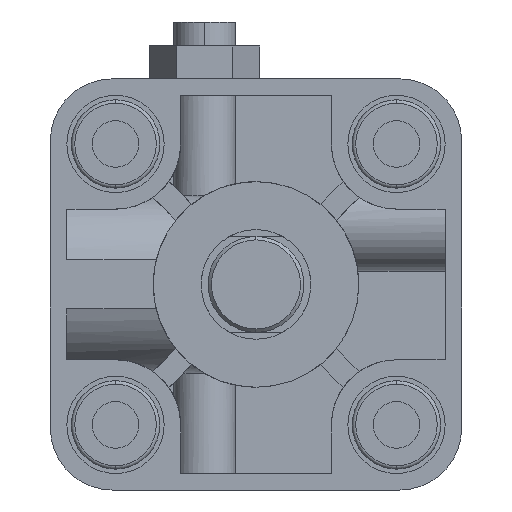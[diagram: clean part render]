
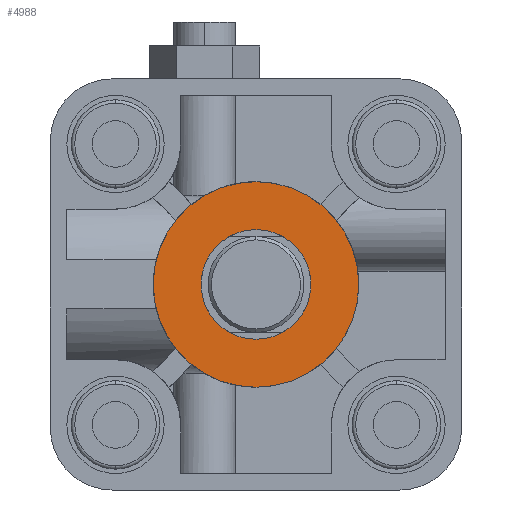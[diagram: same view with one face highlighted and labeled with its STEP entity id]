
A CAD part, left-side view. The second image highlights one B-rep face of the part: STEP entity #4988.
In plain terms, the highlighted planar face has unit normal (-1, 0, 0) as drawn and (1, 0, 0) by its records, which use the part's own axes.
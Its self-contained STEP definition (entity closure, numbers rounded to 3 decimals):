
#47 = EDGE_LOOP ( 'NONE', ( #381, #6078 ) ) ;
#381 = ORIENTED_EDGE ( 'NONE', *, *, #1108, .F. ) ;
#936 = CARTESIAN_POINT ( 'NONE',  ( 24.5, 0., -15. ) ) ;
#1074 = CARTESIAN_POINT ( 'NONE',  ( 24.5, 0., 0. ) ) ;
#1079 = CIRCLE ( 'NONE', #6099, 15. ) ;
#1097 = CARTESIAN_POINT ( 'NONE',  ( 24.5, 0., 0. ) ) ;
#1108 = EDGE_CURVE ( 'NONE', #3528, #4047, #8112, .T. ) ;
#1246 = PLANE ( 'NONE',  #1441 ) ;
#1377 = CARTESIAN_POINT ( 'NONE',  ( 24.5, 8., 0. ) ) ;
#1441 = AXIS2_PLACEMENT_3D ( 'NONE', #1377, #6020, #7096 ) ;
#1668 = CARTESIAN_POINT ( 'NONE',  ( 24.5, 0., -8. ) ) ;
#1759 = DIRECTION ( 'NONE',  ( -1., 0., 0. ) ) ;
#1786 = FACE_BOUND ( 'NONE', #5175, .T. ) ;
#1873 = VERTEX_POINT ( 'NONE', #7824 ) ;
#2124 = ORIENTED_EDGE ( 'NONE', *, *, #3691, .T. ) ;
#2474 = ORIENTED_EDGE ( 'NONE', *, *, #7526, .T. ) ;
#2658 = EDGE_CURVE ( 'NONE', #4047, #3528, #1079, .T. ) ;
#2756 = DIRECTION ( 'NONE',  ( -1., 0., 0. ) ) ;
#2989 = CARTESIAN_POINT ( 'NONE',  ( 24.5, 0., 15. ) ) ;
#2990 = AXIS2_PLACEMENT_3D ( 'NONE', #3666, #2756, #5952 ) ;
#3059 = DIRECTION ( 'NONE',  ( 0., 0., 1. ) ) ;
#3347 = DIRECTION ( 'NONE',  ( 0., 0., 1. ) ) ;
#3528 = VERTEX_POINT ( 'NONE', #2989 ) ;
#3640 = DIRECTION ( 'NONE',  ( 0., 0., 1. ) ) ;
#3666 = CARTESIAN_POINT ( 'NONE',  ( 24.5, 0., 0. ) ) ;
#3691 = EDGE_CURVE ( 'NONE', #4739, #1873, #5955, .T. ) ;
#3744 = FACE_OUTER_BOUND ( 'NONE', #47, .T. ) ;
#4047 = VERTEX_POINT ( 'NONE', #936 ) ;
#4325 = CARTESIAN_POINT ( 'NONE',  ( 24.5, 0., 0. ) ) ;
#4409 = DIRECTION ( 'NONE',  ( -1., 0., 0. ) ) ;
#4739 = VERTEX_POINT ( 'NONE', #1668 ) ;
#4988 = ADVANCED_FACE ( 'NONE', ( #3744, #1786 ), #1246, .F. ) ;
#5101 = DIRECTION ( 'NONE',  ( -1., 0., 0. ) ) ;
#5115 = AXIS2_PLACEMENT_3D ( 'NONE', #1074, #1759, #3059 ) ;
#5133 = AXIS2_PLACEMENT_3D ( 'NONE', #1097, #4409, #3347 ) ;
#5175 = EDGE_LOOP ( 'NONE', ( #2474, #2124 ) ) ;
#5952 = DIRECTION ( 'NONE',  ( 0., 0., 1. ) ) ;
#5955 = CIRCLE ( 'NONE', #2990, 8. ) ;
#6020 = DIRECTION ( 'NONE',  ( -1., 0., 0. ) ) ;
#6078 = ORIENTED_EDGE ( 'NONE', *, *, #2658, .F. ) ;
#6099 = AXIS2_PLACEMENT_3D ( 'NONE', #4325, #5101, #3640 ) ;
#6773 = CIRCLE ( 'NONE', #5133, 8. ) ;
#7096 = DIRECTION ( 'NONE',  ( 0., 0., 1. ) ) ;
#7526 = EDGE_CURVE ( 'NONE', #1873, #4739, #6773, .T. ) ;
#7824 = CARTESIAN_POINT ( 'NONE',  ( 24.5, 0., 8. ) ) ;
#8112 = CIRCLE ( 'NONE', #5115, 15. ) ;
